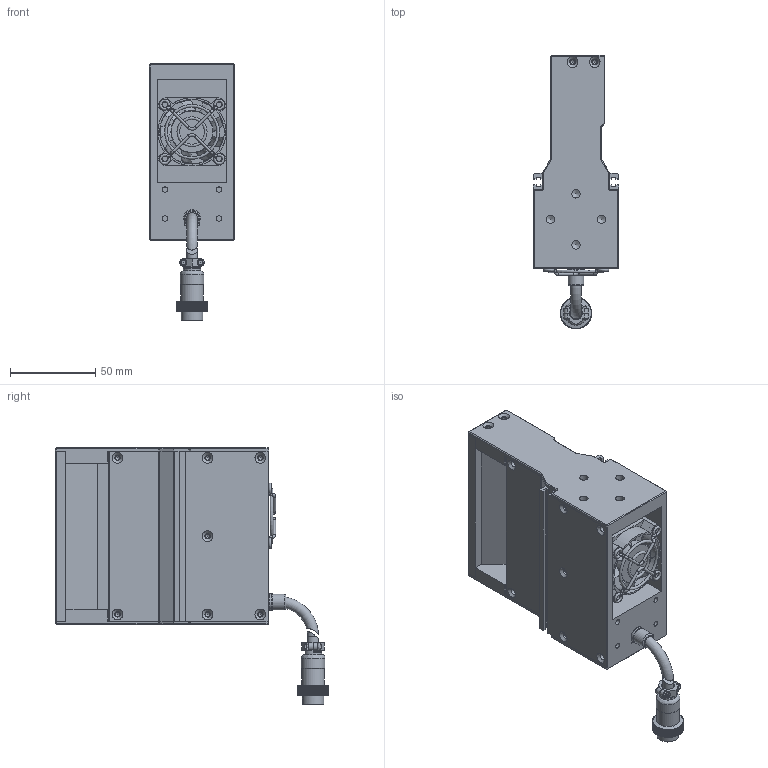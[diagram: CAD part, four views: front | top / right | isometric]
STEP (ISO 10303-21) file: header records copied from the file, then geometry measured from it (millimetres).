
FILE_DESCRIPTION (( 'STEP AP203' ), '1' );
FILE_NAME ('OPT-LSSC104-W-V3.1尨砩芞.STEP', '2025-01-23T07:57:48', ( 'USER' ), ( '' ), 'SwSTEP 2.0', 'SolidWorks 2016', '' );
FILE_SCHEMA (( 'CONFIG_CONTROL_DESIGN' ));
Length unit declared in the file: millimetre
Products named in the file (2): OPT-LSSC104-W-V3.1尨砩芞
Bounding box: 50 x 160.62 x 150.83 mm (x, y, z)
Volume: 416646 mm3; surface area: 99524.9 mm2
Topology: 9 solids, 17 shells, 3579 faces, 7928 edges, 4433 vertices
Faces by surface type: bspline 2086, cylinder 701, plane 688, cone 59, torus 45
Full cylindrical faces by diameter (mm): 0.95 x6, 1.6 x4, 2 x5, 2.5 x18, 3.2 x8, 3.4 x20, 4 x4, 5 x8, 6.2 x4, 6.4 x3, 7.5 x1, 8.6 x1, 9.3 x1, 9.8 x1, 10 x1, 13.2 x1, 14 x1, 16.1 x1, 24.8 x1, 38 x1
Entity records: 120768 total; most frequent: CARTESIAN_POINT 61339, ORIENTED_EDGE 15380, EDGE_CURVE 7690, DIRECTION 5700, B_SPLINE_CURVE_WITH_KNOTS 5449, VERTEX_POINT 4368, EDGE_LOOP 3832, FACE_OUTER_BOUND 3695
